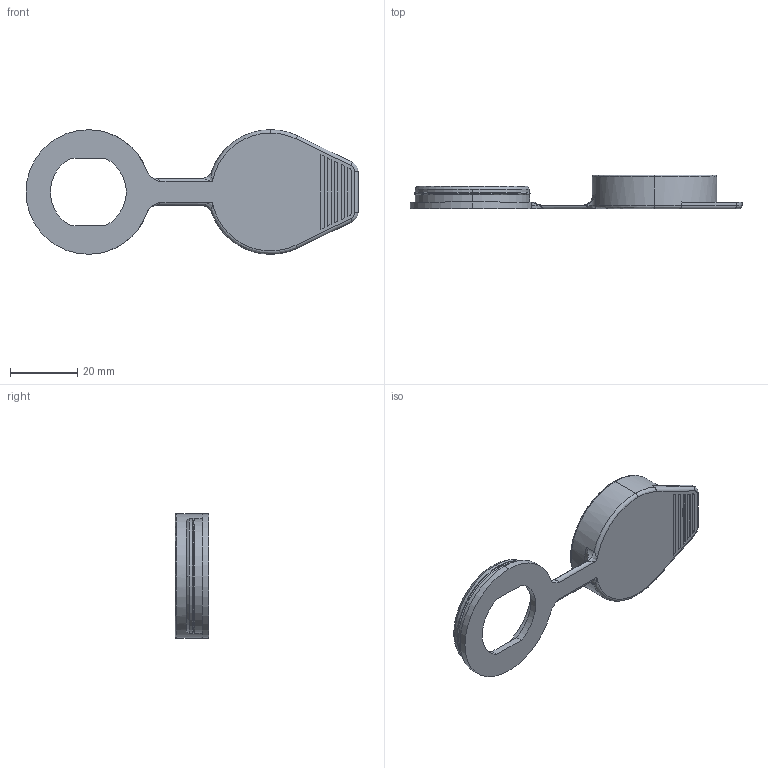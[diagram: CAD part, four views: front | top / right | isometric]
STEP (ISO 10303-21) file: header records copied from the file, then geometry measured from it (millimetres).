
FILE_DESCRIPTION (( 'STEP AP214' ), '1' );
FILE_NAME ('2.904.005.STEP', '2016-08-23T05:49:55', ( 'Krzysiek' ), ( '' ), 'SwSTEP 2.0', 'SolidWorks 2015', '' );
FILE_SCHEMA (( 'AUTOMOTIVE_DESIGN' ));
Length unit declared in the file: millimetre
Products named in the file (1): 2.904.005
Bounding box: 98.62 x 10.01 x 37 mm (x, y, z)
Volume: 5598.9 mm3; surface area: 7588 mm2
Topology: 1 solids, 1 shells, 176 faces, 448 edges, 287 vertices
Faces by surface type: plane 95, bspline 46, cylinder 33, cone 2
Entity records: 6418 total; most frequent: CARTESIAN_POINT 2393, ORIENTED_EDGE 892, DIRECTION 712, EDGE_CURVE 446, VERTEX_POINT 287, LINE 280, VECTOR 280, AXIS2_PLACEMENT_3D 216
